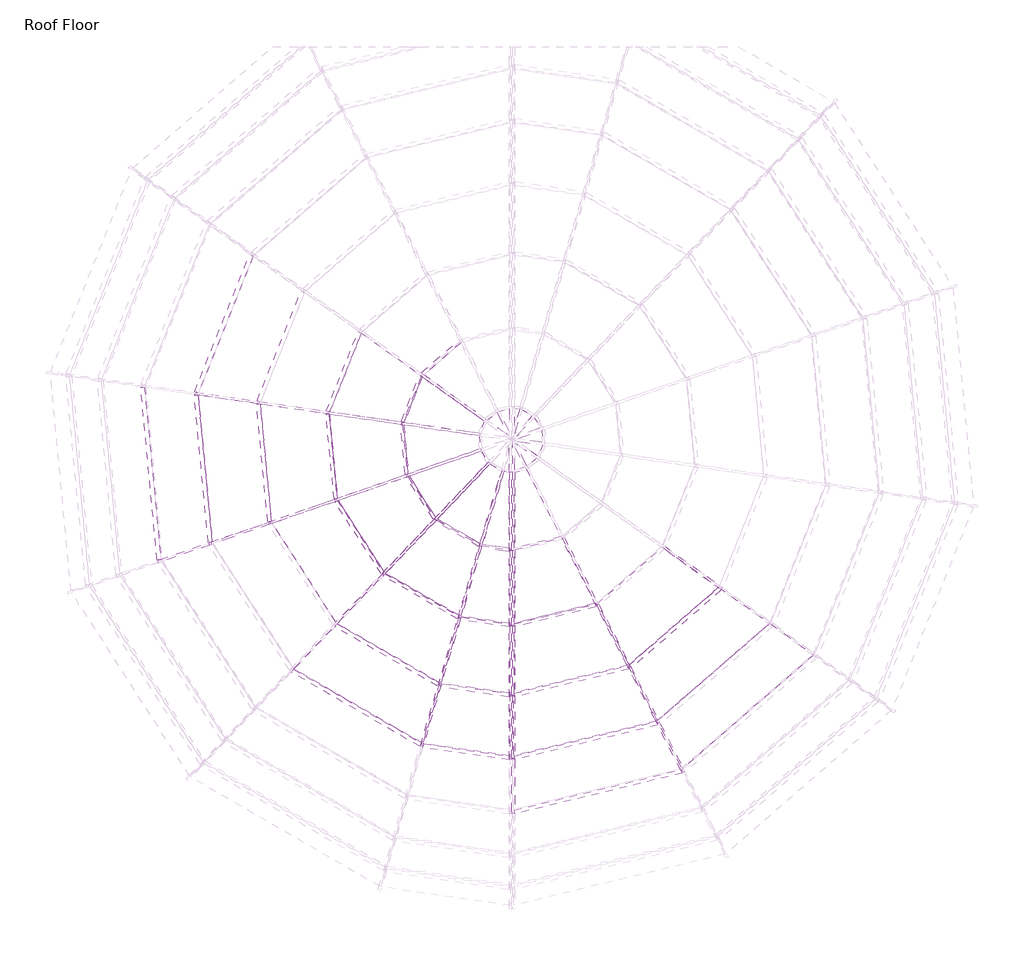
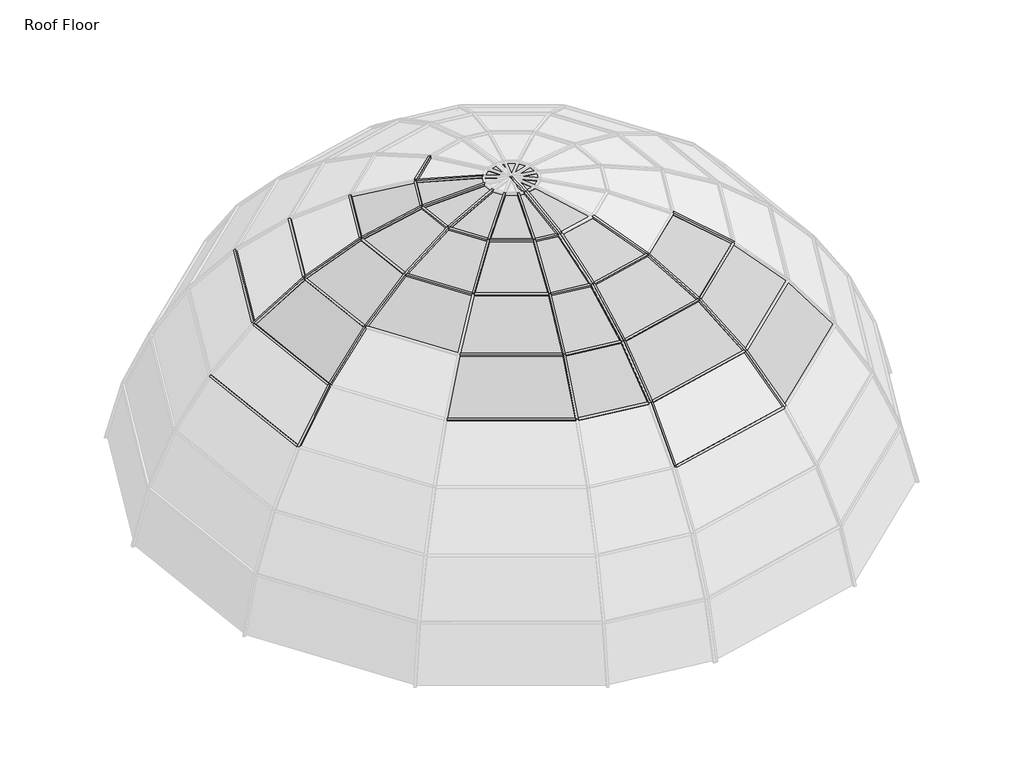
# One storey, part 2 of 5: 56 members, 33 plates.
"""IFC4 building model written with IfcOpenShell, lengths in millimetres."""

from ifc_helpers import new_model, si_unit, origin, place, context, project, spatial, transform, mapped, element, save
from components import member_a4b9d852, member_e5884c93, member_68b33a8a, member_355504b0, member_dee8aa16, member_4046197d, member_16c772f1, member_ac46e98e, member_b6a9e346, member_16816f3b, member_d3833f24, member_335e9b28, member_95e271e4, member_7f7bd10d, member_27f65fe7, member_3534141e, member_a4aff84e, member_5ef621be, member_fbc4017a, member_c4213f63, member_b6c57be0, member_ac816b31, member_27e61d6b, member_0ec1a058, member_85a1b8f2, system_panel_glazed_c9cd471f, system_panel_glazed_f537650c, system_panel_glazed_44273b71, system_panel_glazed_6d268319, system_panel_glazed_99547904, system_panel_glazed_224b1453, system_panel_glazed_86a28251, system_panel_glazed_afbe5211, system_panel_glazed_17e44092, system_panel_glazed_03693a4c, system_panel_glazed_4e9ddf93, system_panel_glazed_1d538f7b, system_panel_glazed_1c764c03, system_panel_glazed_1edf1cd4, system_panel_glazed_730a745b, system_panel_glazed_ecd21c16, system_panel_glazed_1715f78c, system_panel_glazed_c7e3ad41, system_panel_glazed_9eb7958d, system_panel_glazed_02924753, system_panel_glazed_9c9b509f, system_panel_glazed_fecaa5d6

model = new_model("IFC4")

# Units and contexts
model_context = context("Model", 3, world=origin())
ifc_project = project(units=[si_unit("LENGTHUNIT", "METRE", prefix="MILLI")], contexts=[model_context])

# Site, building, storey
site = spatial("IfcSite", under=ifc_project)
building = spatial("IfcBuilding", under=site)
storey = spatial("IfcBuildingStorey", under=building, Name="Roof Floor", Elevation=15240.0)

# Members
placement = place(None, origin())
member_shape = member_a4b9d852(model_context)
element("IfcMember", 1, ObjectType="Rectangular Mullion : 1\" Square", at=placement, inside=storey, context=model_context, shape_type="MappedRepresentation", body=[
    mapped(member_shape, transform((-1076.5556828, -3418.7511629, 21675.0614442), x_axis=(-0.1768450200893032, 0.7291506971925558, 0.6611089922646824), y_axis=(0.15582488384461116, -0.6424824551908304, 0.7502898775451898), z_axis=(0.9718253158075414, 0.23570226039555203, 0.0))),
])
member_2_shape = member_e5884c93(model_context)
element("IfcMember", 2, ObjectType="Rectangular Mullion : 1\" Square", at=placement, inside=storey, context=model_context, shape_type="MappedRepresentation", body=[
    mapped(member_2_shape, transform((-5866.2465514, -1846.2239324, 21117.9670279), x_axis=(0.6270371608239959, 0.059616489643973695, 0.7767047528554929), y_axis=(-0.7732178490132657, -0.07351483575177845, 0.6298648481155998), z_axis=(0.09464965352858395, -0.9955106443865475, 0.0))),
])
member_3_shape = member_68b33a8a(model_context)
element("IfcMember", 3, ObjectType="Rectangular Mullion : 1\" Square", at=placement, inside=storey, context=model_context, shape_type="MappedRepresentation", body=[
    mapped(member_3_shape, transform((-838.3803456, -3880.8791972, 21117.9670279), x_axis=(-0.14846056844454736, 0.6121186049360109, 0.7767047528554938), y_axis=(0.1830710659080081, -0.7548213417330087, 0.6298648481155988), z_axis=(0.9718253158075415, 0.23570226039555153, 0.0))),
])
member_4_shape = member_355504b0(model_context)
element("IfcMember", 4, ObjectType="Rectangular Mullion : 1\" Square", at=placement, inside=storey, context=model_context, shape_type="MappedRepresentation", body=[
    mapped(member_4_shape, transform((-2496.2458139, -1750.988302, 22733.3596998), x_axis=(0.13878677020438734, 0.9628912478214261, 0.2314706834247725), y_axis=(-0.033021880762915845, -0.2291031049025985, 0.9728418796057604), z_axis=(0.9897715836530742, -0.14266117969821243, 0.0))),
])
member_5_shape = member_dee8aa16(model_context)
element("IfcMember", 5, ObjectType="Rectangular Mullion : 1\" Square", at=placement, inside=storey, context=model_context, shape_type="MappedRepresentation", body=[
    mapped(member_5_shape, transform((-2783.8842291, -1704.7570429, 22733.3596998), x_axis=(0.48743077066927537, 0.8430054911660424, 0.22749282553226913), y_axis=(-0.11387277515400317, -0.19694155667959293, 0.9737797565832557), z_axis=(0.8657044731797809, -0.5005554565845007, 0.0))),
])
element("IfcMember", 6, ObjectType="Rectangular Mullion : 1\" Square", at=placement, inside=storey, context=model_context, shape_type="MappedRepresentation", body=[
    mapped(member_5_shape, transform((-3215.8533052, -1448.26924, 22733.3596998), x_axis=(0.8194718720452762, 0.5260350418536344, 0.22749282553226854), y_axis=(-0.19144367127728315, -0.12289144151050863, 0.9737797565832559), z_axis=(0.5401991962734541, -0.8415371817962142, 0.0))),
])
element("IfcMember", 7, ObjectType="Rectangular Mullion : 1\" Square", at=placement, inside=storey, context=model_context, shape_type="MappedRepresentation", body=[
    mapped(member_5_shape, transform((-3482.3228948, -1022.3851788, 22733.3596998), x_axis=(0.9694081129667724, 0.09216791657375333, 0.22749282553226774), y_axis=(-0.22647152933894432, -0.02153211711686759, 0.973779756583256), z_axis=(0.09464965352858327, -0.9955106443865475, 0.0))),
])
element("IfcMember", 8, ObjectType="Rectangular Mullion : 1\" Square", at=placement, inside=storey, context=model_context, shape_type="MappedRepresentation", body=[
    mapped(member_5_shape, transform((-3524.0775334, -521.7457618, 22733.3596998), x_axis=(0.9039203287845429, -0.3621809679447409, 0.22749282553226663), y_axis=(-0.2111723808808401, 0.08461212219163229, 0.9737797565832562), z_axis=(-0.37193314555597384, -0.9282595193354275, 0.0))),
])
element("IfcMember", 9, ObjectType="Rectangular Mullion : 1\" Square", at=placement, inside=storey, context=model_context, shape_type="MappedRepresentation", body=[
    mapped(member_5_shape, transform((-3331.8384125, -57.6041927, 22733.3596998), x_axis=(0.6375613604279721, -0.736045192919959, 0.2274928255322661), y_axis=(-0.1489460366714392, 0.17195366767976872, 0.9737797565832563), z_axis=(-0.7558641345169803, -0.6547285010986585, 0.0))),
])
member_6_shape = member_4046197d(model_context)
element("IfcMember", 10, ObjectType="Rectangular Mullion : 1\" Square", at=placement, inside=storey, context=model_context, shape_type="MappedRepresentation", body=[
    mapped(member_6_shape, transform((-2496.2458139, -2474.4625322, 22494.1337848), x_axis=(0.13145065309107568, 0.9119938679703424, 0.38857162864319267), y_axis=(-0.05543408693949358, -0.3845971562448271, 0.9214185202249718), z_axis=(0.989771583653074, -0.1426611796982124, 0.0))),
])
member_7_shape = member_16c772f1(model_context)
element("IfcMember", 11, ObjectType="Rectangular Mullion : 1\" Square", at=placement, inside=storey, context=model_context, shape_type="MappedRepresentation", body=[
    mapped(member_7_shape, transform((-2988.1962192, -2398.7826709, 22494.1337848), x_axis=(0.4624774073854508, 0.7998489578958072, 0.3825654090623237), y_axis=(-0.19149520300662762, -0.3311885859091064, 0.923928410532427), z_axis=(0.865704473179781, -0.5005554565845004, 0.0))),
])
element("IfcMember", 12, ObjectType="Rectangular Mullion : 1\" Square", at=placement, inside=storey, context=model_context, shape_type="MappedRepresentation", body=[
    mapped(member_7_shape, transform((-3715.4129599, -1971.5809187, 22494.1337848), x_axis=(0.7775201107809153, 0.4991053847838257, 0.38256540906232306), y_axis=(-0.3219430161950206, -0.20666152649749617, 0.9239284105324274), z_axis=(0.5401991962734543, -0.841537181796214, 0.0))),
])
element("IfcMember", 13, ObjectType="Rectangular Mullion : 1\" Square", at=placement, inside=storey, context=model_context, shape_type="MappedRepresentation", body=[
    mapped(member_7_shape, transform((-4166.1169574, -1258.6914241, 22494.1337848), x_axis=(0.919780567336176, 0.08744950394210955, 0.3825654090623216), y_axis=(-0.3808479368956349, -0.03620968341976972, 0.9239284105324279), z_axis=(0.09464965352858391, -0.9955106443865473, 0.0))),
])
element("IfcMember", 14, ObjectType="Rectangular Mullion : 1\" Square", at=placement, inside=storey, context=model_context, shape_type="MappedRepresentation", body=[
    mapped(member_7_shape, transform((-4240.1517679, -418.5340746, 22494.1337848), x_axis=(0.8576453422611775, -0.34363959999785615, 0.38256540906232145), y_axis=(-0.35511998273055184, 0.14228875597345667, 0.923928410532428), z_axis=(-0.3719331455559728, -0.9282595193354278, 0.0))),
])
member_8_shape = member_ac46e98e(model_context)
element("IfcMember", 15, ObjectType="Rectangular Mullion : 1\" Square", at=placement, inside=storey, context=model_context, shape_type="MappedRepresentation", body=[
    mapped(member_8_shape, transform((-1662.4458203, -2281.9573172, 22494.1337848), x_axis=(-0.21777201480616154, 0.8978970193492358, 0.38256540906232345), y_axis=(0.0901715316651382, -0.37178674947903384, 0.9239284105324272), z_axis=(0.9718253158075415, 0.23570226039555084, 0.0))),
])
member_9_shape = member_b6a9e346(model_context)
element("IfcMember", 16, ObjectType="Rectangular Mullion : 1\" Square", at=placement, inside=storey, context=model_context, shape_type="MappedRepresentation", body=[
    mapped(member_9_shape, transform((-2496.2458139, -3148.1562054, 22138.0708204), x_axis=(0.1204918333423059, 0.8359624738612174, 0.5353956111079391), y_axis=(-0.07638016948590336, -0.5299193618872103, 0.8446014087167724), z_axis=(0.9897715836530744, -0.14266117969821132, 0.0))),
])
member_10_shape = member_16816f3b(model_context)
element("IfcMember", 17, ObjectType="Rectangular Mullion : 1\" Square", at=placement, inside=storey, context=model_context, shape_type="MappedRepresentation", body=[
    mapped(member_10_shape, transform((-3178.4499827, -3045.0540309, 22138.0708204), x_axis=(0.42496420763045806, 0.7349703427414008, 0.5284165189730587), y_axis=(-0.2645017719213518, -0.4574525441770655, 0.8489852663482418), z_axis=(0.865704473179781, -0.5005554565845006, 0.0))),
])
element("IfcMember", 18, ObjectType="Rectangular Mullion : 1\" Square", at=placement, inside=storey, context=model_context, shape_type="MappedRepresentation", body=[
    mapped(member_10_shape, transform((-4802.8607619, -1478.7379934, 22138.0708204), x_axis=(0.8451738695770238, 0.08035616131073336, 0.5284165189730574), y_axis=(-0.5260442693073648, -0.050014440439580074, 0.8489852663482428), z_axis=(0.09464965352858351, -0.9955106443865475, 0.0))),
])
element("IfcMember", 19, ObjectType="Rectangular Mullion : 1\" Square", at=placement, inside=storey, context=model_context, shape_type="MappedRepresentation", body=[
    mapped(member_10_shape, transform((-4906.9546217, -322.4241404, 22138.0708204), x_axis=(0.7880786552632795, -0.3157657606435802, 0.5284165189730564), y_axis=(-0.4905076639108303, 0.19653561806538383, 0.8489852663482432), z_axis=(-0.3719331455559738, -0.9282595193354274, 0.0))),
])
element("IfcMember", 20, ObjectType="Rectangular Mullion : 1\" Square", at=placement, inside=storey, context=model_context, shape_type="MappedRepresentation", body=[
    mapped(member_10_shape, transform((-472.4625291, -2125.0703261, 22138.0708204), x_axis=(-0.5558548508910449, 0.6417175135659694, 0.5284165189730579), y_axis=(0.3459693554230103, -0.399411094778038, 0.8489852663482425), z_axis=(0.7558641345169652, 0.654728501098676, 0.0))),
])
member_11_shape = member_d3833f24(model_context)
element("IfcMember", 21, ObjectType="Rectangular Mullion : 1\" Square", at=placement, inside=storey, context=model_context, shape_type="MappedRepresentation", body=[
    mapped(member_11_shape, transform((-1353.8113566, -2880.7961378, 22138.0708204), x_axis=(-0.20010774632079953, 0.8250653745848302, 0.5284165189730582), y_axis=(0.12454896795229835, -0.5135285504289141, 0.8489852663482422), z_axis=(0.9718253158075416, 0.23570226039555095, 0.0))),
])
member_12_shape = member_335e9b28(model_context)
element("IfcMember", 22, ObjectType="Rectangular Mullion : 1\" Square", at=placement, inside=storey, context=model_context, shape_type="MappedRepresentation", body=[
    mapped(member_12_shape, transform((-2496.2458139, -3753.3556085, 21675.0614442), x_axis=(0.1061758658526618, 0.7366394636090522, 0.6678989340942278), y_axis=(-0.09528324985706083, -0.6610673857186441, 0.7442519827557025), z_axis=(0.9897715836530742, -0.1426611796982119, 0.0))),
])
member_13_shape = member_95e271e4(model_context)
element("IfcMember", 23, ObjectType="Rectangular Mullion : 1\" Square", at=placement, inside=storey, context=model_context, shape_type="MappedRepresentation", body=[
    mapped(member_13_shape, transform((-3349.3606929, -3625.6191408, 21675.0614442), x_axis=(0.3755616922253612, 0.6495293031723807, 0.6611089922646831), y_axis=(-0.3309217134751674, -0.5723250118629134, 0.7502898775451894), z_axis=(0.865704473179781, -0.5005554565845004, 0.0))),
])
element("IfcMember", 24, ObjectType="Rectangular Mullion : 1\" Square", at=placement, inside=storey, context=model_context, shape_type="MappedRepresentation", body=[
    mapped(member_13_shape, transform((-5374.8669805, -1676.4124822, 21675.0614442), x_axis=(0.7469215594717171, 0.07101467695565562, 0.6611089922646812), y_axis=(-0.6581410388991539, -0.06257373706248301, 0.750289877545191), z_axis=(0.09464965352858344, -0.9955106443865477, 0.0))),
])
element("IfcMember", 25, ObjectType="Rectangular Mullion : 1\" Square", at=placement, inside=storey, context=model_context, shape_type="MappedRepresentation", body=[
    mapped(member_13_shape, transform((-5505.9637934, -236.0856796, 21675.0614442), x_axis=(0.6964637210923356, -0.27905767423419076, 0.6611089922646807), y_axis=(-0.6136807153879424, 0.24588834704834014, 0.7502898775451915), z_axis=(-0.3719331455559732, -0.9282595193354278, 0.0))),
])
member_14_shape = member_7f7bd10d(model_context)
element("IfcMember", 26, ObjectType="Rectangular Mullion : 1\" Square", at=placement, inside=storey, context=model_context, shape_type="MappedRepresentation", body=[
    mapped(member_14_shape, transform((-5510.6873443, -247.8745755, 21675.0614442), x_axis=(-0.14266117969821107, -0.9897715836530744, 0.0), y_axis=(-0.6014088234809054, 0.08668433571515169, 0.7942249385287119), z_axis=(-0.7861012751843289, 0.11330506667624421, -0.6076238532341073))),
])
element("IfcMember", 27, ObjectType="Rectangular Mullion : 1\" Square", at=placement, inside=storey, context=model_context, shape_type="MappedRepresentation", body=[
    mapped(member_14_shape, transform((-4911.6781726, -334.2130363, 22138.0708204), x_axis=(-0.14266117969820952, -0.9897715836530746, 0.0), y_axis=(-0.46249475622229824, 0.0666618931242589, 0.8841124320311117), z_axis=(-0.8750693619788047, 0.12612852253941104, -0.4672742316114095))),
])
element("IfcMember", 28, ObjectType="Rectangular Mullion : 1\" Square", at=placement, inside=storey, context=model_context, shape_type="MappedRepresentation", body=[
    mapped(member_14_shape, transform((-4244.8753188, -430.3229705, 22494.1337848), x_axis=(-0.1426611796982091, -0.9897715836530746, 0.0), y_axis=(-0.31073361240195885, 0.04478773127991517, 0.9494412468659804), z_axis=(-0.9397299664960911, 0.13544840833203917, -0.3139447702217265))),
])
element("IfcMember", 29, ObjectType="Rectangular Mullion : 1\" Square", at=placement, inside=storey, context=model_context, shape_type="MappedRepresentation", body=[
    mapped(member_14_shape, transform((-826.0381641, -3877.8857785, 21117.9670279), x_axis=(0.8888888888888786, 0.4581228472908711, 0.0), y_axis=(0.3349313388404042, -0.6498622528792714, 0.6822756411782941), z_axis=(0.3125660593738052, -0.6064672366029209, -0.7310950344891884))),
])
element("IfcMember", 30, ObjectType="Rectangular Mullion : 1\" Square", at=placement, inside=storey, context=model_context, shape_type="MappedRepresentation", body=[
    mapped(member_14_shape, transform((-1064.2135013, -3415.7577442, 21675.0614442), x_axis=(0.8888888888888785, 0.45812284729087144, 0.0), y_axis=(0.27836636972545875, -0.5401100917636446, 0.7942249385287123), z_axis=(0.36385259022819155, -0.7059777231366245, -0.6076238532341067))),
])
element("IfcMember", 31, ObjectType="Rectangular Mullion : 1\" Square", at=placement, inside=storey, context=model_context, shape_type="MappedRepresentation", body=[
    mapped(member_14_shape, transform((-1341.4691751, -2877.8027191, 22138.0708204), x_axis=(0.8888888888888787, 0.4581228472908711, 0.0), y_axis=(0.21406900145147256, -0.41535487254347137, 0.8841124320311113), z_axis=(0.4050321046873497, -0.7858777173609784, -0.46727423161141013))),
])
element("IfcMember", 32, ObjectType="Rectangular Mullion : 1\" Square", at=placement, inside=storey, context=model_context, shape_type="MappedRepresentation", body=[
    mapped(member_14_shape, transform((-1650.1036388, -2278.9638985, 22494.1337848), x_axis=(0.8888888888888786, 0.45812284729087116, 0.0), y_axis=(0.14382527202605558, -0.27906201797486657, 0.9494412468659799), z_axis=(0.4349607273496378, -0.8439477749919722, -0.31394477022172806))),
])
element("IfcMember", 33, ObjectType="Rectangular Mullion : 1\" Square", at=placement, inside=storey, context=model_context, shape_type="MappedRepresentation", body=[
    mapped(member_14_shape, transform((-462.8630546, -2116.7552742, 22138.0708204), x_axis=(0.5802469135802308, 0.8144406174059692, 0.0), y_axis=(0.3805671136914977, -0.27113443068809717, 0.88411243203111), z_axis=(0.7200570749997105, -0.5130035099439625, -0.4672742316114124))),
])
member_15_shape = member_27f65fe7(model_context)
element("IfcMember", 34, ObjectType="Rectangular Mullion : 1\" Square", at=placement, inside=storey, context=model_context, shape_type="MappedRepresentation", body=[
    mapped(member_15_shape, transform((-3341.437887, -65.9192447, 22733.3596998), x_axis=(-0.5802469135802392, -0.8144406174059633, 0.0), y_axis=(-0.1237091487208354, 0.08813638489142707, 0.9883966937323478), z_axis=(-0.804990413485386, 0.5735141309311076, -0.15189462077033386))),
])
element("IfcMember", 35, ObjectType="Rectangular Mullion : 1\" Square", at=placement, inside=storey, context=model_context, shape_type="MappedRepresentation", body=[
    mapped(member_15_shape, transform((-3528.8010843, -533.5346577, 22733.3596998), x_axis=(-0.1426611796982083, -0.9897715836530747, 0.0), y_axis=(-0.15034097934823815, 0.02166946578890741, 0.9883966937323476), z_axis=(-0.9782869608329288, 0.14100583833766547, -0.1518946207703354))),
])
member_16_shape = member_3534141e(model_context)
element("IfcMember", 36, ObjectType="Rectangular Mullion : 1\" Square", at=placement, inside=storey, context=model_context, shape_type="MappedRepresentation", body=[
    mapped(member_16_shape, transform((-2471.1056157, -1001.4536154, 22849.1034008), x_axis=(-0.9993221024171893, -0.005591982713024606, 0.036387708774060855), y_axis=(0.036814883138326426, -0.15179165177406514, 0.9877266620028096), z_axis=(0.0, 0.9883966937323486, 0.1518946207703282))),
])
member_17_shape = member_a4aff84e(model_context)
element("IfcMember", 37, ObjectType="Rectangular Mullion : 1\" Square", at=placement, inside=storey, context=model_context, shape_type="MappedRepresentation", body=[
    mapped(member_17_shape, transform((-2471.1056157, -2478.0861261, 22494.1337848), x_axis=(0.9989777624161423, -0.014191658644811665, 0.04291884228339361), y_axis=(-0.045204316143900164, -0.31362384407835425, 0.9484706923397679), z_axis=(0.0, -0.9494412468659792, -0.31394477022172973))),
])
member_18_shape = member_5ef621be(model_context)
element("IfcMember", 38, ObjectType="Rectangular Mullion : 1\" Square", at=placement, inside=storey, context=model_context, shape_type="MappedRepresentation", body=[
    mapped(member_18_shape, transform((-2471.1056157, -1754.611896, 22733.3596998), x_axis=(0.9997604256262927, -0.003324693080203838, 0.02163418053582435), y_axis=(-0.021888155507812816, -0.15185823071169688, 0.988159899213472), z_axis=(0.0, -0.9883966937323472, -0.15189462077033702))),
])
member_19_shape = member_fbc4017a(model_context)
element("IfcMember", 39, ObjectType="Rectangular Mullion : 1\" Square", at=placement, inside=storey, context=model_context, shape_type="MappedRepresentation", body=[
    mapped(member_19_shape, transform((-2471.1056157, -1001.4536154, 22849.1034008), x_axis=(0.9999876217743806, -0.00017314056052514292, 0.004972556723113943), y_axis=(-0.004975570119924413, -0.03479770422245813, 0.9993819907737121), z_axis=(0.0, -0.9993943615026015, -0.03479813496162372))),
])
member_20_shape = member_c4213f63(model_context)
element("IfcMember", 40, ObjectType="Rectangular Mullion : 1\" Square", at=placement, inside=storey, context=model_context, shape_type="MappedRepresentation", body=[
    mapped(member_20_shape, transform((-2471.1056157, -3756.9792025, 21675.0614442), x_axis=(-0.9846406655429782, -0.12764416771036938, 0.11912063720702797), y_axis=(0.1745931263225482, -0.719865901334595, 0.6717963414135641), z_axis=(0.0, 0.6822756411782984, 0.7310950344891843))),
])
member_21_shape = member_b6c57be0(model_context)
element("IfcMember", 41, ObjectType="Rectangular Mullion : 1\" Square", at=placement, inside=storey, context=model_context, shape_type="MappedRepresentation", body=[
    mapped(member_21_shape, transform((-2471.1056157, -3151.7797993, 22138.0708204), x_axis=(-0.9893147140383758, -0.08858896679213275, 0.11579460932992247), y_axis=(0.14579573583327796, -0.6011312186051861, 0.7857384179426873), z_axis=(0.0, 0.7942249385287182, 0.6076238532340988))),
])
member_22_shape = member_ac816b31(model_context)
element("IfcMember", 42, ObjectType="Rectangular Mullion : 1\" Square", at=placement, inside=storey, context=model_context, shape_type="MappedRepresentation", body=[
    mapped(member_22_shape, transform((-2471.1056157, -2478.0861261, 22494.1337848), x_axis=(-0.993639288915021, -0.05261965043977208, 0.0995597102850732), y_axis=(0.11260978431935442, -0.46430203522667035, 0.8784888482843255), z_axis=(0.0, 0.8841124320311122, 0.4672742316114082))),
])
member_23_shape = member_27e61d6b(model_context)
element("IfcMember", 43, ObjectType="Rectangular Mullion : 1\" Square", at=placement, inside=storey, context=model_context, shape_type="MappedRepresentation", body=[
    mapped(member_23_shape, transform((-2471.1056157, -1754.611896, 22733.3596998), x_axis=(-0.9971136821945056, -0.023835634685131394, 0.07208444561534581), y_axis=(0.07592301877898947, -0.3130386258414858, 0.9467008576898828), z_axis=(0.0, 0.9494412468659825, 0.3139447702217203))),
])
member_24_shape = member_0ec1a058(model_context)
element("IfcMember", 44, ObjectType="Rectangular Mullion : 1\" Square", at=placement, inside=storey, context=model_context, shape_type="MappedRepresentation", body=[
    mapped(member_24_shape, transform((-2471.1056157, -3756.9792025, 21675.0614442), x_axis=(0.9961867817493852, -0.05301285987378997, 0.06929309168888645), y_axis=(-0.08724617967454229, -0.6053068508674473, 0.7911963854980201), z_axis=(0.0, -0.7942249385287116, -0.6076238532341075))),
])
member_25_shape = member_85a1b8f2(model_context)
element("IfcMember", 45, ObjectType="Rectangular Mullion : 1\" Square", at=placement, inside=storey, context=model_context, shape_type="MappedRepresentation", body=[
    mapped(member_25_shape, transform((-2471.1056157, -3151.7797993, 22138.0708204), x_axis=(0.9977396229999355, -0.031400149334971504, 0.05941107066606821), y_axis=(-0.06719854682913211, -0.4662180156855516, 0.8821140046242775), z_axis=(0.0, -0.8841124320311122, -0.4672742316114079))),
])
element("IfcMember", 46, ObjectType="Rectangular Mullion : 1\" Square", at=placement, inside=storey, context=model_context, shape_type="MappedRepresentation", body=[
    mapped(member_14_shape, transform((-5865.0445008, -1858.8669176, 21117.9670279), x_axis=(0.326627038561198, -0.9451533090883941, 0.0), y_axis=(-0.6909968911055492, -0.23879540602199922, 0.6822756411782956), z_axis=(-0.6448550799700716, -0.22284967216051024, -0.731095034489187))),
])
element("IfcMember", 47, ObjectType="Rectangular Mullion : 1\" Square", at=placement, inside=storey, context=model_context, shape_type="MappedRepresentation", body=[
    mapped(member_14_shape, transform((-5373.6649299, -1689.0554674, 21675.0614442), x_axis=(0.3266270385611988, -0.945153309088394, 0.0), y_axis=(-0.5742976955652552, -0.19846637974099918, 0.7942249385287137), z_axis=(-0.7506643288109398, -0.2594153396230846, -0.6076238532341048))),
])
element("IfcMember", 48, ObjectType="Rectangular Mullion : 1\" Square", at=placement, inside=storey, context=model_context, shape_type="MappedRepresentation", body=[
    mapped(member_14_shape, transform((-4801.6587113, -1491.3809786, 22138.0708204), x_axis=(0.3266270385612, -0.9451533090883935, 0.0), y_axis=(-0.44164578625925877, -0.15262439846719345, 0.8841124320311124), z_axis=(-0.8356217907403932, -0.288775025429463, -0.46727423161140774))),
])
element("IfcMember", 49, ObjectType="Rectangular Mullion : 1\" Square", at=placement, inside=storey, context=model_context, shape_type="MappedRepresentation", body=[
    mapped(member_14_shape, transform((-4164.9149068, -1271.3344092, 22494.1337848), x_axis=(0.3266270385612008, -0.9451533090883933, 0.0), y_axis=(-0.2967259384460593, -0.10254285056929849, 0.9494412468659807), z_axis=(-0.8973675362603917, -0.3101131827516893, -0.31394477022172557))),
])
element("IfcMember", 50, ObjectType="Rectangular Mullion : 1\" Square", at=placement, inside=storey, context=model_context, shape_type="MappedRepresentation", body=[
    mapped(member_14_shape, transform((-3708.5524301, -1982.2684409, 22494.1337848), x_axis=(0.7233314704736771, -0.6905009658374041, 0.0), y_axis=(-0.2167791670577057, -0.2270861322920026, 0.9494412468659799), z_axis=(-0.6555900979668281, -0.6867607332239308, -0.31394477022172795))),
])
element("IfcMember", 51, ObjectType="Rectangular Mullion : 1\" Square", at=placement, inside=storey, context=model_context, shape_type="MappedRepresentation", body=[
    mapped(member_14_shape, transform((-3338.3662461, -3631.976195, 21675.0614442), x_axis=(0.9592955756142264, -0.2824039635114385, 0.0), y_axis=(-0.17159538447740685, -0.5828908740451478, 0.7942249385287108), z_axis=(-0.22429227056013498, -0.7618964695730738, -0.6076238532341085))),
])
element("IfcMember", 52, ObjectType="Rectangular Mullion : 1\" Square", at=placement, inside=storey, context=model_context, shape_type="MappedRepresentation", body=[
    mapped(member_14_shape, transform((-3167.4555359, -3051.4110852, 22138.0708204), x_axis=(0.9592955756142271, -0.2824039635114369, 0.0), y_axis=(-0.13196009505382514, -0.44825410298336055, 0.8841124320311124), z_axis=(-0.24967685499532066, -0.8481251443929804, -0.46727423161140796))),
])
element("IfcMember", 53, ObjectType="Rectangular Mullion : 1\" Square", at=placement, inside=storey, context=model_context, shape_type="MappedRepresentation", body=[
    mapped(member_14_shape, transform((-2977.2017724, -2405.1397252, 22494.1337848), x_axis=(0.959295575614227, -0.282403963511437, 0.0), y_axis=(-0.08865924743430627, -0.30116582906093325, 0.9494412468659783), z_axis=(-0.26812597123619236, -0.9107947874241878, -0.31394477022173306))),
])
element("IfcMember", 54, ObjectType="Rectangular Mullion : 1\" Square", at=placement, inside=storey, context=model_context, shape_type="MappedRepresentation", body=[
    mapped(member_15_shape, transform((-3481.1208442, -1035.028164, 22733.3596998), x_axis=(0.32662703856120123, -0.945153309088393, 0.0), y_axis=(-0.1435637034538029, -0.04961289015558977, 0.9883966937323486), z_axis=(-0.9341864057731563, -0.32283708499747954, -0.15189462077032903))),
])
element("IfcMember", 55, ObjectType="Rectangular Mullion : 1\" Square", at=placement, inside=storey, context=model_context, shape_type="MappedRepresentation", body=[
    mapped(member_15_shape, transform((-3208.9927754, -1458.9567622, 22733.3596998), x_axis=(0.7233314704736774, -0.6905009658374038, 0.0), y_axis=(-0.10488338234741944, -0.10987015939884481, 0.9883966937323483), z_axis=(-0.6824888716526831, -0.7149384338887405, -0.15189462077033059))),
])
element("IfcMember", 56, ObjectType="Rectangular Mullion : 1\" Square", at=placement, inside=storey, context=model_context, shape_type="MappedRepresentation", body=[
    mapped(member_15_shape, transform((-2772.8897823, -1711.1140972, 22733.3596998), x_axis=(0.9592955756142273, -0.28240396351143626, 0.0), y_axis=(-0.042895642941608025, -0.1457118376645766, 0.9883966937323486), z_axis=(-0.27912714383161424, -0.9481645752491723, -0.15189462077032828))),
])

# Plates
system_panel_glazed_shape = system_panel_glazed_c9cd471f(model_context)
element("IfcPlate", 57, ObjectType="System Panel : Glazed", at=placement, inside=storey, context=model_context, shape_type="MappedRepresentation", body=[
    mapped(system_panel_glazed_shape, transform((-191.8757321, -3317.287633, 21127.3743739), x_axis=(0.7558641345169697, 0.6547285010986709, 0.0), y_axis=(-0.4849809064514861, 0.5598957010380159, -0.6717963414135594), z_axis=(-0.4398442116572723, 0.5077867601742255, 0.7407359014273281))),
])
system_panel_glazed_2_shape = system_panel_glazed_f537650c(model_context)
element("IfcPlate", 58, ObjectType="System Panel : Glazed", at=placement, inside=storey, context=model_context, shape_type="MappedRepresentation", body=[
    mapped(system_panel_glazed_2_shape, transform((-1763.7294541, -3575.1471024, 21682.9171425), x_axis=(0.9718253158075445, 0.2357022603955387, 0.0), y_axis=(-0.14579573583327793, 0.6011312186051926, -0.7857384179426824), z_axis=(-0.18520032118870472, 0.7636004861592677, 0.6185589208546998))),
])
system_panel_glazed_3_shape = system_panel_glazed_44273b71(model_context)
element("IfcPlate", 59, ObjectType="System Panel : Glazed", at=placement, inside=storey, context=model_context, shape_type="MappedRepresentation", body=[
    mapped(system_panel_glazed_3_shape, transform((-523.6222459, -2934.2963761, 21682.9171425), x_axis=(0.7558641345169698, 0.654728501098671, 0.0), y_axis=(-0.4049881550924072, 0.46754650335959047, -0.7857384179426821), z_axis=(-0.5144453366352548, 0.593911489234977, 0.6185589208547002))),
])
element("IfcPlate", 60, ObjectType="System Panel : Glazed", at=placement, inside=storey, context=model_context, shape_type="MappedRepresentation", body=[
    mapped(system_panel_glazed_3_shape, transform((-5432.2420579, -967.5205241, 21682.9171425), x_axis=(0.0946496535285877, -0.9955106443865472, 0.0), y_axis=(0.6157819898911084, 0.05854638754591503, -0.785738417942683), z_axis=(0.7822109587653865, 0.07436986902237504, 0.618558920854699))),
])
element("IfcPlate", 61, ObjectType="System Panel : Glazed", at=placement, inside=storey, context=model_context, shape_type="MappedRepresentation", body=[
    mapped(system_panel_glazed_3_shape, transform((-3960.0028085, -3261.0153635, 21682.9171425), x_axis=(0.8657044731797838, -0.5005554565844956, 0.0), y_axis=(0.3096230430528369, 0.5354892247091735, -0.7857384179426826), z_axis=(0.3933056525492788, 0.6802172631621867, 0.6185589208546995))),
])
system_panel_glazed_4_shape = system_panel_glazed_6d268319(model_context)
element("IfcPlate", 62, ObjectType="System Panel : Glazed", at=placement, inside=storey, context=model_context, shape_type="MappedRepresentation", body=[
    mapped(system_panel_glazed_4_shape, transform((-2909.6282297, -3683.6205117, 21682.8282837), x_axis=(0.989771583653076, -0.14266117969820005, 0.0), y_axis=(0.08724617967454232, 0.6053068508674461, -0.7911963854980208), z_axis=(0.11287300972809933, 0.7831036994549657, 0.6115621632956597))),
])
system_panel_glazed_5_shape = system_panel_glazed_99547904(model_context)
element("IfcPlate", 63, ObjectType="System Panel : Glazed", at=placement, inside=storey, context=model_context, shape_type="MappedRepresentation", body=[
    mapped(system_panel_glazed_5_shape, transform((-1902.6074708, -3002.4184853, 22144.1384086), x_axis=(0.9718253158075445, 0.23570226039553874, 0.0), y_axis=(-0.11260978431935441, 0.4643020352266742, -0.8784888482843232), z_axis=(-0.2070618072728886, 0.8537377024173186, 0.47776285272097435))),
])
system_panel_glazed_6_shape = system_panel_glazed_224b1453(model_context)
element("IfcPlate", 64, ObjectType="System Panel : Glazed", at=placement, inside=storey, context=model_context, shape_type="MappedRepresentation", body=[
    mapped(system_panel_glazed_6_shape, transform((-909.4707952, -2488.8459653, 22144.1384086), x_axis=(0.7558641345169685, 0.6547285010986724, 0.0), y_axis=(-0.3128049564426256, 0.36112380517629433, -0.8784888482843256), z_axis=(-0.5751716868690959, 0.66401821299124, 0.47776285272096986))),
])
element("IfcPlate", 65, ObjectType="System Panel : Glazed", at=placement, inside=storey, context=model_context, shape_type="MappedRepresentation", body=[
    mapped(system_panel_glazed_6_shape, transform((-4845.5617205, -911.7410194, 22144.1384086), x_axis=(0.0946496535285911, -0.9955106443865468, 0.0), y_axis=(0.475618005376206, 0.04522008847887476, -0.8784888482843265), z_axis=(0.8745449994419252, 0.08314866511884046, 0.4777628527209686))),
])
element("IfcPlate", 66, ObjectType="System Panel : Glazed", at=placement, inside=storey, context=model_context, shape_type="MappedRepresentation", body=[
    mapped(system_panel_glazed_6_shape, transform((-4478.3097677, -1974.4497285, 22144.1384086), x_axis=(0.5401991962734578, -0.8415371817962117, 0.0), y_axis=(0.4020552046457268, 0.2580871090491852, -0.8784888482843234), z_axis=(0.7392810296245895, 0.4745589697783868, 0.4777628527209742))),
])
element("IfcPlate", 67, ObjectType="System Panel : Glazed", at=placement, inside=storey, context=model_context, shape_type="MappedRepresentation", body=[
    mapped(system_panel_glazed_6_shape, transform((-3665.0124477, -2750.8331818, 22144.1384086), x_axis=(0.865704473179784, -0.5005554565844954, 0.0), y_axis=(0.23914680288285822, 0.4136014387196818, -0.8784888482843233), z_axis=(0.43973238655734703, 0.7605117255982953, 0.4777628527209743))),
])
system_panel_glazed_7_shape = system_panel_glazed_86a28251(model_context)
element("IfcPlate", 68, ObjectType="System Panel : Glazed", at=placement, inside=storey, context=model_context, shape_type="MappedRepresentation", body=[
    mapped(system_panel_glazed_7_shape, transform((-2824.0180109, -3089.5939905, 22144.0529771), x_axis=(0.9897715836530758, -0.1426611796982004, 0.0), y_axis=(0.0671985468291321, 0.4662180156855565, -0.882114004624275), z_axis=(0.12584342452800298, 0.8730913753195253, 0.4710359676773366))),
])
system_panel_glazed_8_shape = system_panel_glazed_afbe5211(model_context)
element("IfcPlate", 69, ObjectType="System Panel : Glazed", at=placement, inside=storey, context=model_context, shape_type="MappedRepresentation", body=[
    mapped(system_panel_glazed_8_shape, transform((-2057.1068274, -2365.3050025, 22498.2246338), x_axis=(0.9718253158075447, 0.23570226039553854, 0.0), y_axis=(-0.07592301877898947, 0.3130386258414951, -0.9467008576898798), z_axis=(-0.2231395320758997, 0.9200278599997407, 0.32211408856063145))),
])
system_panel_glazed_9_shape = system_panel_glazed_17e44092(model_context)
element("IfcPlate", 70, ObjectType="System Panel : Glazed", at=placement, inside=storey, context=model_context, shape_type="MappedRepresentation", body=[
    mapped(system_panel_glazed_9_shape, transform((-4076.6094444, -42.6960528, 22498.2246338), x_axis=(-0.3719331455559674, -0.9282595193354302, 0.0), y_axis=(0.29900546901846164, -0.11980490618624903, -0.9467008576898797), z_axis=(0.8787840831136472, -0.3521094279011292, 0.32211408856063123))),
])
element("IfcPlate", 71, ObjectType="System Panel : Glazed", at=placement, inside=storey, context=model_context, shape_type="MappedRepresentation", body=[
    mapped(system_panel_glazed_9_shape, transform((-4192.9259879, -849.6907075, 22498.2246338), x_axis=(0.0946496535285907, -0.995510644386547, 0.0), y_axis=(0.3206680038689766, 0.030487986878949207, -0.9467008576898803), z_axis=(0.9424507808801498, 0.08960490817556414, 0.3221140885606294))),
])
element("IfcPlate", 72, ObjectType="System Panel : Glazed", at=placement, inside=storey, context=model_context, shape_type="MappedRepresentation", body=[
    mapped(system_panel_glazed_9_shape, transform((-3926.615782, -1620.3065556, 22498.2246338), x_axis=(0.5401991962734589, -0.841537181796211, 0.0), y_axis=(0.271070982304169, 0.17400577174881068, -0.9467008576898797), z_axis=(0.7966839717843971, 0.5114070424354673, 0.3221140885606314))),
])
element("IfcPlate", 73, ObjectType="System Panel : Glazed", at=placement, inside=storey, context=model_context, shape_type="MappedRepresentation", body=[
    mapped(system_panel_glazed_9_shape, transform((-3336.8588725, -2183.2956308, 22498.2246338), x_axis=(0.865704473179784, -0.5005554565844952, 0.0), y_axis=(0.16123596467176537, 0.2788556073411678, -0.9467008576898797), z_axis=(0.4738762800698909, 0.819563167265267, 0.32211408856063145))),
])
system_panel_glazed_10_shape = system_panel_glazed_03693a4c(model_context)
element("IfcPlate", 74, ObjectType="System Panel : Glazed", at=placement, inside=storey, context=model_context, shape_type="MappedRepresentation", body=[
    mapped(system_panel_glazed_10_shape, transform((-2728.7787665, -2428.7762305, 22498.1579687), x_axis=(0.9897715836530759, -0.1426611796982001, 0.0), y_axis=(0.04520431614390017, 0.3136238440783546, -0.9484706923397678), z_axis=(0.1353099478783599, 0.9387693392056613, 0.31686486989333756))),
])
system_panel_glazed_11_shape = system_panel_glazed_4e9ddf93(model_context)
element("IfcPlate", 75, ObjectType="System Panel : Glazed", at=placement, inside=storey, context=model_context, shape_type="MappedRepresentation", body=[
    mapped(system_panel_glazed_11_shape, transform((-2222.9356485, -1681.5140361, 22735.3433422), x_axis=(0.9718253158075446, 0.2357022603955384, 0.0), y_axis=(-0.036814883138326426, 0.15179165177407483, -0.9877266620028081), z_axis=(-0.23280940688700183, 0.9598977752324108, 0.15619232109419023))),
])
system_panel_glazed_12_shape = system_panel_glazed_1d538f7b(model_context)
element("IfcPlate", 76, ObjectType="System Panel : Glazed", at=placement, inside=storey, context=model_context, shape_type="MappedRepresentation", body=[
    mapped(system_panel_glazed_12_shape, transform((-3423.4752789, -304.3925284, 22735.3433422), x_axis=(-0.3719331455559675, -0.92825951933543, 0.0), y_axis=(0.14498700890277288, -0.0580931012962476, -0.9877266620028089), z_axis=(0.9168666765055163, -0.3673682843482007, 0.15619232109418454))),
])
element("IfcPlate", 77, ObjectType="System Panel : Glazed", at=placement, inside=storey, context=model_context, shape_type="MappedRepresentation", body=[
    mapped(system_panel_glazed_12_shape, transform((-3492.4731507, -783.0941134, 22735.3433422), x_axis=(0.09464965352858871, -0.995510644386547, 0.0), y_axis=(0.15549111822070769, 0.014783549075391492, -0.987726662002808), z_axis=(0.9832924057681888, 0.09348798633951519, 0.1561923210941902))),
])
element("IfcPlate", 78, ObjectType="System Panel : Glazed", at=placement, inside=storey, context=model_context, shape_type="MappedRepresentation", body=[
    mapped(system_panel_glazed_12_shape, transform((-3334.5004592, -1240.2161349, 22735.3433422), x_axis=(0.5401991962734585, -0.8415371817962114, 0.0), y_axis=(0.13144164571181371, 0.08437496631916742, -0.9877266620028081), z_axis=(0.831208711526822, 0.5335691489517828, 0.15619232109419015))),
])
element("IfcPlate", 79, ObjectType="System Panel : Glazed", at=placement, inside=storey, context=model_context, shape_type="MappedRepresentation", body=[
    mapped(system_panel_glazed_12_shape, transform((-2984.6622469, -1574.1759215, 22735.3433422), x_axis=(0.8657044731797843, -0.5005554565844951, 0.0), y_axis=(0.07818291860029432, 0.13521639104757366, -0.9877266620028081), z_axis=(0.49441197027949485, 0.8550793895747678, 0.15619232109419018))),
])
system_panel_glazed_13_shape = system_panel_glazed_1c764c03(model_context)
element("IfcPlate", 80, ObjectType="System Panel : Glazed", at=placement, inside=storey, context=model_context, shape_type="MappedRepresentation", body=[
    mapped(system_panel_glazed_13_shape, transform((-2626.5558326, -1719.5266878, 22735.3082297), x_axis=(0.9897715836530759, -0.1426611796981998, 0.0), y_axis=(0.021888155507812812, 0.15185823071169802, -0.9881598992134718), z_axis=(0.14097205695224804, 0.9780525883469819, 0.15342755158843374))),
])
system_panel_glazed_14_shape = system_panel_glazed_1edf1cd4(model_context)
element("IfcPlate", 81, ObjectType="System Panel : Glazed", at=placement, inside=storey, context=model_context, shape_type="MappedRepresentation", body=[
    mapped(system_panel_glazed_14_shape, transform((-2395.4861833, -982.2189768, 22849.1342886), x_axis=(0.9999649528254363, 0.0002890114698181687, -0.008367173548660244), y_axis=(-0.008372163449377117, 0.034519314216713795, -0.9993689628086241), z_axis=(0.0, 0.9994039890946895, 0.03452052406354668))),
])
system_panel_glazed_15_shape = system_panel_glazed_730a745b(model_context)
element("IfcPlate", 82, ObjectType="System Panel : Glazed", at=placement, inside=storey, context=model_context, shape_type="MappedRepresentation", body=[
    mapped(system_panel_glazed_15_shape, transform((-2335.2603835, -946.2448874, 22849.8468539), x_axis=(0.9997295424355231, 0.0006245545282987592, -0.023247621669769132), y_axis=(-0.023256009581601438, 0.026848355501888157, -0.9993689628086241), z_axis=(0.0, 0.9996393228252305, 0.02685561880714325))),
])
system_panel_glazed_16_shape = system_panel_glazed_ecd21c16(model_context)
element("IfcPlate", 83, ObjectType="System Panel : Glazed", at=placement, inside=storey, context=model_context, shape_type="MappedRepresentation", body=[
    mapped(system_panel_glazed_16_shape, transform((-2298.8726069, -849.3613514, 22852.1578434), x_axis=(0.9994562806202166, 0.00043583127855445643, -0.03296897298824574), y_axis=(-0.03297185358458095, 0.013211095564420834, -0.9993689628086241), z_axis=(0.0, 0.9999126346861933, 0.013218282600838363))),
])
system_panel_glazed_17_shape = system_panel_glazed_1715f78c(model_context)
element("IfcPlate", 84, ObjectType="System Panel : Glazed", at=placement, inside=storey, context=model_context, shape_type="MappedRepresentation", body=[
    mapped(system_panel_glazed_17_shape, transform((-2295.2492326, -716.1043234, 22853.8790033), x_axis=(0.9993746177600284, -0.00011895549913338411, -0.03536041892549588), y_axis=(-0.035360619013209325, -0.0033619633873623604, -0.999368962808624), z_axis=(0.0, 0.9999943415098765, -0.0033640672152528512))),
])
system_panel_glazed_18_shape = system_panel_glazed_c7e3ad41(model_context)
element("IfcPlate", 85, ObjectType="System Panel : Glazed", at=placement, inside=storey, context=model_context, shape_type="MappedRepresentation", body=[
    mapped(system_panel_glazed_18_shape, transform((-2309.054656, -656.9487383, 22854.5954822), x_axis=(0.9995531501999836, -0.0005738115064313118, -0.029885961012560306), y_axis=(-0.029891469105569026, -0.019187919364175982, -0.999368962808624), z_axis=(0.0, 0.9998157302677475, -0.01919649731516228))),
])
system_panel_glazed_19_shape = system_panel_glazed_9eb7958d(model_context)
element("IfcPlate", 86, ObjectType="System Panel : Glazed", at=placement, inside=storey, context=model_context, shape_type="MappedRepresentation", body=[
    mapped(system_panel_glazed_19_shape, transform((-2358.8714038, -639.3911054, 22856.5695463), x_axis=(0.9998419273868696, -0.000546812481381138, -0.01777135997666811), y_axis=(-0.01777977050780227, -0.03074989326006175, -0.9993689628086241), z_axis=(0.0, 0.9995269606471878, -0.030754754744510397))),
])
system_panel_glazed_20_shape = system_panel_glazed_02924753(model_context)
element("IfcPlate", 87, ObjectType="System Panel : Glazed", at=placement, inside=storey, context=model_context, shape_type="MappedRepresentation", body=[
    mapped(system_panel_glazed_20_shape, transform((-2422.0218647, -554.7414488, 22855.2222964), x_axis=(0.9999876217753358, -0.00017175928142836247, -0.004972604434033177), y_axis=(-0.004975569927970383, -0.034520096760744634, -0.9993916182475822), z_axis=(0.0, 0.9994039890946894, -0.034520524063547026))),
])
system_panel_glazed_21_shape = system_panel_glazed_9c9b509f(model_context)
element("IfcPlate", 88, ObjectType="System Panel : Glazed", at=placement, inside=storey, context=model_context, shape_type="MappedRepresentation", body=[
    mapped(system_panel_glazed_21_shape, transform((-2546.7250481, -609.0005025, 22856.7073347), x_axis=(0.9999649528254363, 0.00028901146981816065, 0.008367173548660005), y_axis=(0.008372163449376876, -0.03451931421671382, -0.9993689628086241), z_axis=(0.0, 0.9994039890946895, -0.034520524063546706))),
])
system_panel_glazed_22_shape = system_panel_glazed_fecaa5d6(model_context)
element("IfcPlate", 89, ObjectType="System Panel : Glazed", at=placement, inside=storey, context=model_context, shape_type="MappedRepresentation", body=[
    mapped(system_panel_glazed_22_shape, transform((-2606.9508479, -645.3251758, 22855.7464195), x_axis=(0.9997295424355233, 0.0006245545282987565, 0.023247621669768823), y_axis=(0.023256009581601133, -0.026848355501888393, -0.9993689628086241), z_axis=(0.0, 0.9996393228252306, -0.026855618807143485))),
])

save(model, "model.ifc")
